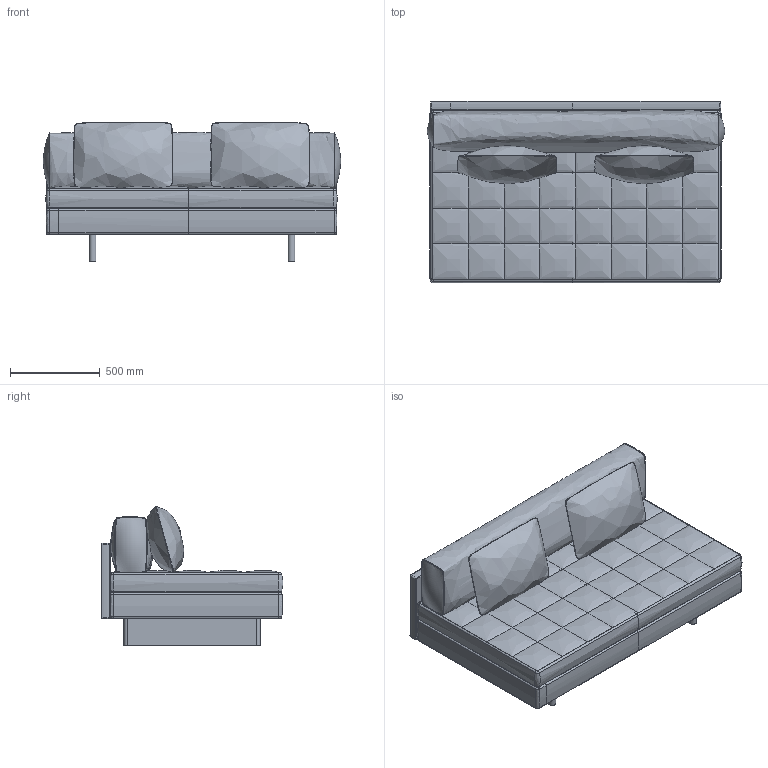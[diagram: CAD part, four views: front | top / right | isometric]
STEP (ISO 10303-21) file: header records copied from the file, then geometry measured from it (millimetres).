
FILE_DESCRIPTION(/* description */ (''),/* implementation_level */ '2;1');
FILE_NAME(/* name */ 'Asymmetric_Grand_CB-664G_3D',/* time_stamp */ '2024-06-27T12:37:11+02:00',/* author */ (''),/* organization */ (''),/* preprocessor_version */ 'ST-DEVELOPER v16.5',/* originating_system */ 'Rhino 7.34',/* authorisation */ '');
FILE_SCHEMA (('AUTOMOTIVE_DESIGN'));
Length unit declared in the file: centimetre
Products named in the file (2): Document; Asymmetric_Grand_CB-664G
Assembly tree (1 placements, depth 2):
  Document
    Asymmetric_Grand_CB-664G
Bounding box: 1660.52 x 1016 x 778.83 mm (x, y, z)
Volume: 486421363.3 mm3; surface area: 13915204.2 mm2
Topology: 10 solids, 55 shells, 187 faces, 472 edges, 342 vertices
Faces by surface type: bspline 146, cylinder 21, plane 20
Entity records: 37863 total; most frequent: CARTESIAN_POINT 35085, ORIENTED_EDGE 775, EDGE_CURVE 472, VERTEX_POINT 342, B_SPLINE_CURVE_WITH_KNOTS 242, ADVANCED_FACE 187, FACE_OUTER_BOUND 187, EDGE_LOOP 187
